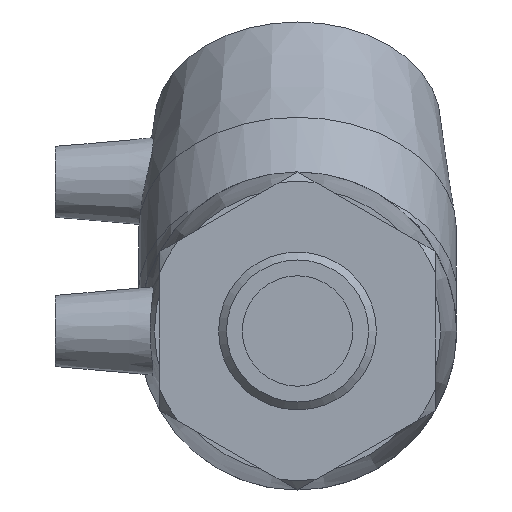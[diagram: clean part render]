
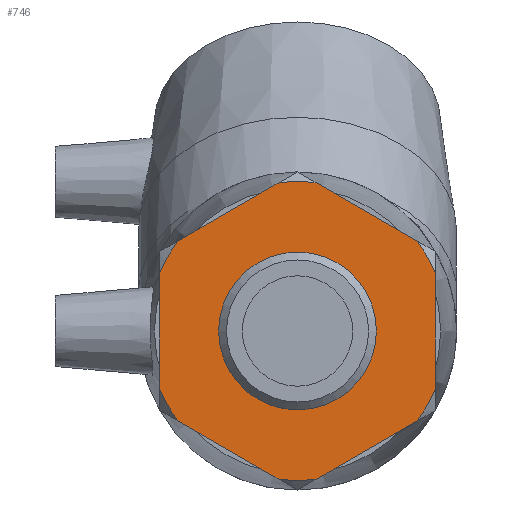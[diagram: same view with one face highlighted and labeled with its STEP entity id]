
A CAD part, left-side view. The second image highlights one B-rep face of the part: STEP entity #746.
In plain terms, the highlighted planar face has unit normal (-1, 0, 0).
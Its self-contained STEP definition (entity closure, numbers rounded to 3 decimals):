
#19=LINE('',#1163,#37);
#23=LINE('',#1187,#41);
#26=LINE('',#1209,#44);
#29=LINE('',#1231,#47);
#34=LINE('',#1268,#52);
#36=LINE('',#1287,#54);
#37=VECTOR('',#926,24.489);
#41=VECTOR('',#932,24.489);
#44=VECTOR('',#937,24.489);
#47=VECTOR('',#942,24.489);
#52=VECTOR('',#949,24.489);
#54=VECTOR('',#953,24.489);
#101=PLANE('',#813);
#121=FACE_BOUND('',#228,.T.);
#165=FACE_OUTER_BOUND('',#227,.T.);
#227=EDGE_LOOP('',(#584,#585,#586,#587,#588,#589,#590,#591,#592,#593,#594,
#595));
#228=EDGE_LOOP('',(#596));
#315=CIRCLE('',#806,16.625);
#316=CIRCLE('',#814,31.49);
#317=CIRCLE('',#815,31.49);
#318=CIRCLE('',#816,31.49);
#319=CIRCLE('',#817,31.49);
#320=CIRCLE('',#818,31.49);
#321=CIRCLE('',#819,31.49);
#364=VERTEX_POINT('',#1154);
#365=VERTEX_POINT('',#1157);
#367=VERTEX_POINT('',#1162);
#373=VERTEX_POINT('',#1182);
#374=VERTEX_POINT('',#1186);
#379=VERTEX_POINT('',#1204);
#380=VERTEX_POINT('',#1208);
#385=VERTEX_POINT('',#1226);
#386=VERTEX_POINT('',#1230);
#392=VERTEX_POINT('',#1249);
#396=VERTEX_POINT('',#1264);
#397=VERTEX_POINT('',#1270);
#400=VERTEX_POINT('',#1283);
#439=EDGE_CURVE('',#364,#364,#315,.T.);
#441=EDGE_CURVE('',#367,#365,#19,.T.);
#449=EDGE_CURVE('',#374,#373,#23,.T.);
#456=EDGE_CURVE('',#380,#379,#26,.T.);
#463=EDGE_CURVE('',#386,#385,#29,.T.);
#475=EDGE_CURVE('',#392,#396,#34,.T.);
#481=EDGE_CURVE('',#397,#400,#36,.T.);
#482=EDGE_CURVE('',#392,#400,#316,.T.);
#483=EDGE_CURVE('',#386,#396,#317,.T.);
#484=EDGE_CURVE('',#380,#385,#318,.T.);
#485=EDGE_CURVE('',#374,#379,#319,.T.);
#486=EDGE_CURVE('',#367,#373,#320,.T.);
#487=EDGE_CURVE('',#397,#365,#321,.T.);
#584=ORIENTED_EDGE('',*,*,#481,.T.);
#585=ORIENTED_EDGE('',*,*,#482,.F.);
#586=ORIENTED_EDGE('',*,*,#475,.T.);
#587=ORIENTED_EDGE('',*,*,#483,.F.);
#588=ORIENTED_EDGE('',*,*,#463,.T.);
#589=ORIENTED_EDGE('',*,*,#484,.F.);
#590=ORIENTED_EDGE('',*,*,#456,.T.);
#591=ORIENTED_EDGE('',*,*,#485,.F.);
#592=ORIENTED_EDGE('',*,*,#449,.T.);
#593=ORIENTED_EDGE('',*,*,#486,.F.);
#594=ORIENTED_EDGE('',*,*,#441,.T.);
#595=ORIENTED_EDGE('',*,*,#487,.F.);
#596=ORIENTED_EDGE('',*,*,#439,.T.);
#746=ADVANCED_FACE('',(#165,#121),#101,.T.);
#806=AXIS2_PLACEMENT_3D('',#1155,#922,#923);
#813=AXIS2_PLACEMENT_3D('',#1288,#954,#955);
#814=AXIS2_PLACEMENT_3D('',#1289,#956,#957);
#815=AXIS2_PLACEMENT_3D('',#1290,#958,#959);
#816=AXIS2_PLACEMENT_3D('',#1291,#960,#961);
#817=AXIS2_PLACEMENT_3D('',#1292,#962,#963);
#818=AXIS2_PLACEMENT_3D('',#1293,#964,#965);
#819=AXIS2_PLACEMENT_3D('',#1294,#966,#967);
#922=DIRECTION('center_axis',(1.,0.,0.));
#923=DIRECTION('ref_axis',(0.,0.,-1.));
#926=DIRECTION('',(0.,0.,-1.));
#932=DIRECTION('',(0.,0.866,-0.5));
#937=DIRECTION('',(0.,0.866,0.5));
#942=DIRECTION('',(0.,0.,1.));
#949=DIRECTION('',(0.,-0.866,0.5));
#953=DIRECTION('',(0.,-0.866,-0.5));
#954=DIRECTION('center_axis',(-1.,0.,0.));
#955=DIRECTION('ref_axis',(0.,0.,1.));
#956=DIRECTION('center_axis',(1.,0.,0.));
#957=DIRECTION('ref_axis',(0.,0.,1.));
#958=DIRECTION('center_axis',(1.,0.,0.));
#959=DIRECTION('ref_axis',(0.,0.,1.));
#960=DIRECTION('center_axis',(1.,0.,0.));
#961=DIRECTION('ref_axis',(0.,0.,1.));
#962=DIRECTION('center_axis',(1.,0.,0.));
#963=DIRECTION('ref_axis',(0.,0.,1.));
#964=DIRECTION('center_axis',(1.,0.,0.));
#965=DIRECTION('ref_axis',(0.,0.,1.));
#966=DIRECTION('center_axis',(1.,0.,0.));
#967=DIRECTION('ref_axis',(0.,0.,1.));
#1154=CARTESIAN_POINT('',(-70.506,0.,-16.625));
#1155=CARTESIAN_POINT('Origin',(-70.506,0.,0.));
#1157=CARTESIAN_POINT('',(-70.506,29.012,-12.245));
#1162=CARTESIAN_POINT('',(-70.506,29.012,12.245));
#1163=CARTESIAN_POINT('',(-70.506,29.012,-25.125));
#1182=CARTESIAN_POINT('',(-70.506,25.11,19.003));
#1186=CARTESIAN_POINT('',(-70.506,3.902,31.247));
#1187=CARTESIAN_POINT('',(-70.506,29.012,16.75));
#1204=CARTESIAN_POINT('',(-70.506,-3.902,31.247));
#1208=CARTESIAN_POINT('',(-70.506,-25.11,19.003));
#1209=CARTESIAN_POINT('',(-70.506,-14.506,25.125));
#1226=CARTESIAN_POINT('',(-70.506,-29.012,12.245));
#1230=CARTESIAN_POINT('',(-70.506,-29.012,-12.245));
#1231=CARTESIAN_POINT('',(-70.506,-29.012,-8.375));
#1249=CARTESIAN_POINT('',(-70.506,-3.902,-31.247));
#1264=CARTESIAN_POINT('',(-70.506,-25.11,-19.003));
#1268=CARTESIAN_POINT('',(-70.506,-14.506,-25.125));
#1270=CARTESIAN_POINT('',(-70.506,25.11,-19.003));
#1283=CARTESIAN_POINT('',(-70.506,3.902,-31.247));
#1287=CARTESIAN_POINT('',(-70.506,0.,-33.5));
#1288=CARTESIAN_POINT('Origin',(-70.506,0.,-33.5));
#1289=CARTESIAN_POINT('Origin',(-70.506,0.,0.));
#1290=CARTESIAN_POINT('Origin',(-70.506,0.,0.));
#1291=CARTESIAN_POINT('Origin',(-70.506,0.,0.));
#1292=CARTESIAN_POINT('Origin',(-70.506,0.,0.));
#1293=CARTESIAN_POINT('Origin',(-70.506,0.,0.));
#1294=CARTESIAN_POINT('Origin',(-70.506,0.,0.));
